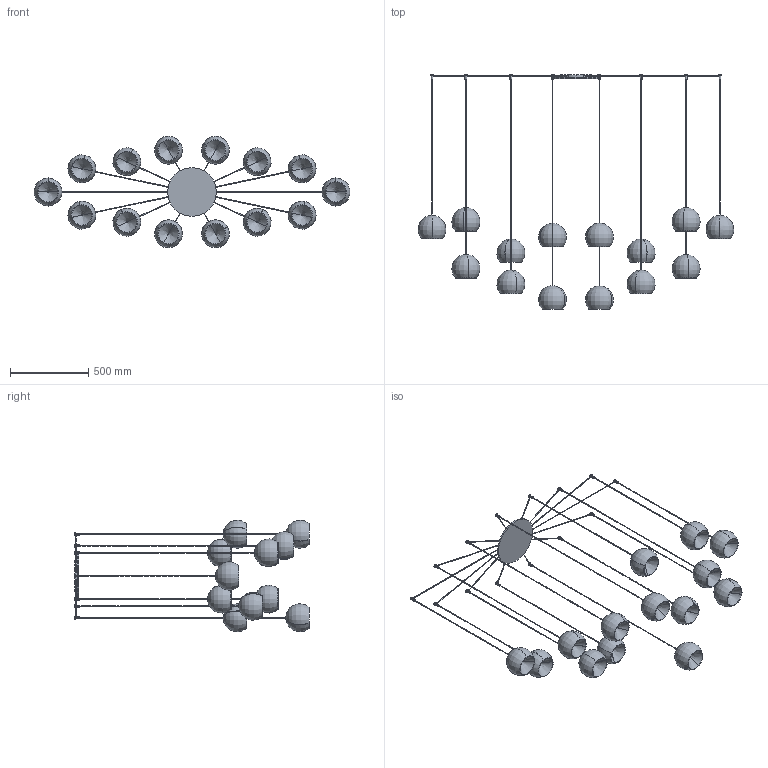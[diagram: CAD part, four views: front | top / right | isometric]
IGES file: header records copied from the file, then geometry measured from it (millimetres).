
Start section: SolidWorks IGES file using analytic representation for surfaces
Global section: file name: Y:\eforma\TECNICO\SOLIDWORKS\E-FORMA\09-LAMPADE\CHERRY\08 modelli 3D web\CHR14-00-CHERRY_14 sospensione.IGS; native system: SolidWorks 2022; preprocessor: SolidWorks 2022; author: eforma.tech; date: 240801.143814; units: millimetre
Bounding box: 2016.72 x 1500 x 713.43 mm (x, y, z)
Volume: 4141538.8 mm3; surface area: 3398068.7 mm2
Topology: 70 solids, 70 shells, 525 faces, 1118 edges, 706 vertices
Faces by surface type: revolution 368, plane 157
